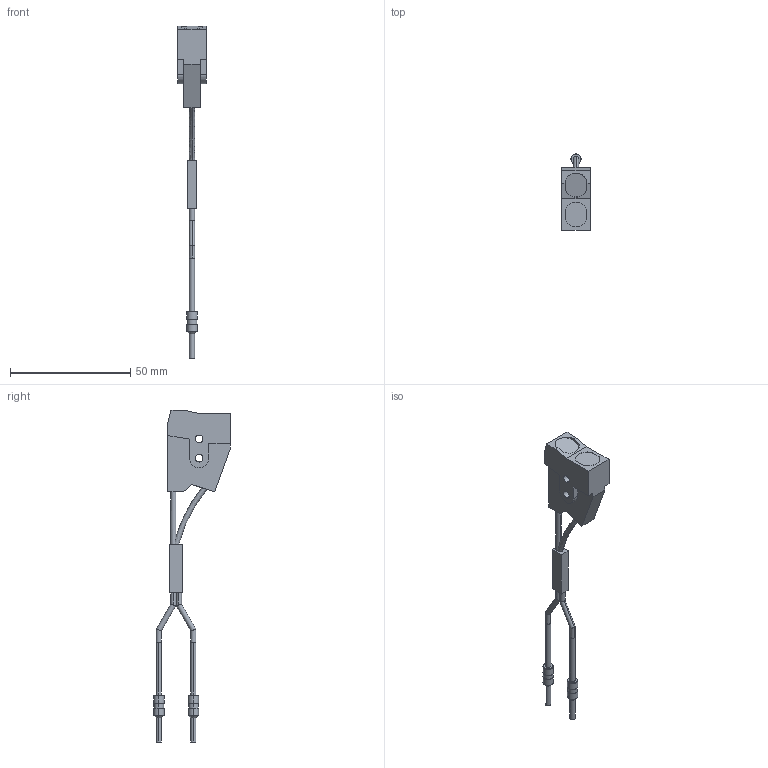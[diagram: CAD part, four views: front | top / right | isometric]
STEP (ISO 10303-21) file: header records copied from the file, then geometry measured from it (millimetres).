
FILE_DESCRIPTION (( 'STEP AP203' ), '1' );
FILE_NAME ('FD-L54.STEP', '2005-09-05T01:40:45', ( '川島良英' ), ( ' ' ), 'SwSTEP 2.0', 'SolidWorks 2004251', '' );
FILE_SCHEMA (( 'CONFIG_CONTROL_DESIGN' ));
Length unit declared in the file: millimetre
Products named in the file (1): FD-L54
Bounding box: 12 x 31.91 x 137.9 mm (x, y, z)
Volume: 8383.8 mm3; surface area: 4817.6 mm2
Topology: 3 solids, 3 shells, 102 faces, 241 edges, 155 vertices
Faces by surface type: cylinder 46, plane 46, cone 8, bspline 2
Entity records: 3081 total; most frequent: CARTESIAN_POINT 618, DIRECTION 509, ORIENTED_EDGE 482, EDGE_CURVE 241, AXIS2_PLACEMENT_3D 184, VERTEX_POINT 155, VECTOR 141, LINE 141
